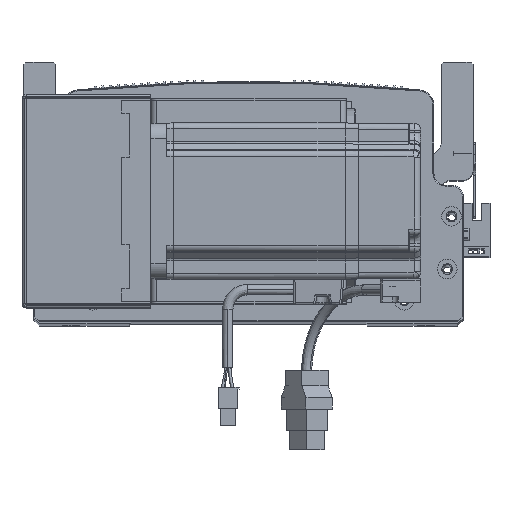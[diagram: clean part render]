
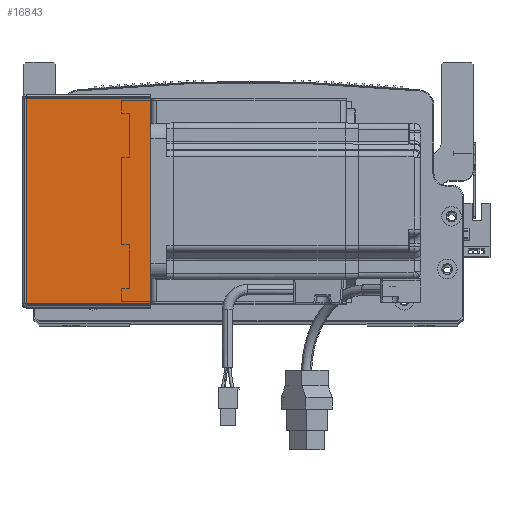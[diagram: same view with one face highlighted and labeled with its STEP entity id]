
A CAD part, top view. The second image highlights one B-rep face of the part: STEP entity #16843.
In plain terms, the highlighted planar face has unit normal (0, 0, 1) as drawn and (0, 0, -1) by its records, which use the part's own axes.
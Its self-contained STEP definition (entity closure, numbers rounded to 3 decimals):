
#2902 = DIRECTION ( 'NONE',  ( 0., -1., 0. ) ) ;
#3238 = CARTESIAN_POINT ( 'NONE',  ( 64.5, 0.707, -205.5 ) ) ;
#5547 = VERTEX_POINT ( 'NONE', #3238 ) ;
#9069 = CARTESIAN_POINT ( 'NONE',  ( 0.737, 105.293, -205.5 ) ) ;
#10373 = AXIS2_PLACEMENT_3D ( 'NONE', #22209, #60274, #54116 ) ;
#10546 = CARTESIAN_POINT ( 'NONE',  ( 0., 105.293, -205.5 ) ) ;
#10885 = LINE ( 'NONE', #23029, #52917 ) ;
#10970 = VECTOR ( 'NONE', #50141, 1000. ) ;
#11019 = LINE ( 'NONE', #10546, #80303 ) ;
#12000 = FACE_OUTER_BOUND ( 'NONE', #64985, .T. ) ;
#13099 = VERTEX_POINT ( 'NONE', #49737 ) ;
#15364 = CARTESIAN_POINT ( 'NONE',  ( 0.737, 0.707, -205.5 ) ) ;
#15518 = PLANE ( 'NONE',  #10373 ) ;
#16734 = ORIENTED_EDGE ( 'NONE', *, *, #67306, .F. ) ;
#16843 = ADVANCED_FACE ( 'NONE', ( #12000 ), #15518, .F. ) ;
#22209 = CARTESIAN_POINT ( 'NONE',  ( 0., 0., -205.5 ) ) ;
#23029 = CARTESIAN_POINT ( 'NONE',  ( 0.737, 0., -205.5 ) ) ;
#25190 = CARTESIAN_POINT ( 'NONE',  ( 64.5, 0., -205.5 ) ) ;
#25981 = VECTOR ( 'NONE', #73008, 1000. ) ;
#27032 = LINE ( 'NONE', #25190, #10970 ) ;
#27817 = EDGE_CURVE ( 'NONE', #54894, #37359, #10885, .T. ) ;
#37359 = VERTEX_POINT ( 'NONE', #15364 ) ;
#40148 = LINE ( 'NONE', #40335, #25981 ) ;
#40335 = CARTESIAN_POINT ( 'NONE',  ( 0., 0.707, -205.5 ) ) ;
#45036 = ORIENTED_EDGE ( 'NONE', *, *, #82685, .T. ) ;
#48886 = ORIENTED_EDGE ( 'NONE', *, *, #27817, .F. ) ;
#49737 = CARTESIAN_POINT ( 'NONE',  ( 64.5, 105.293, -205.5 ) ) ;
#50141 = DIRECTION ( 'NONE',  ( 0., -1., 0. ) ) ;
#52917 = VECTOR ( 'NONE', #2902, 1000. ) ;
#54116 = DIRECTION ( 'NONE',  ( 1., 0., 0. ) ) ;
#54894 = VERTEX_POINT ( 'NONE', #9069 ) ;
#60274 = DIRECTION ( 'NONE',  ( 0., 0., 1. ) ) ;
#61440 = DIRECTION ( 'NONE',  ( 1., 0., 0. ) ) ;
#64985 = EDGE_LOOP ( 'NONE', ( #48886, #81441, #45036, #16734 ) ) ;
#65156 = EDGE_CURVE ( 'NONE', #54894, #13099, #11019, .T. ) ;
#67306 = EDGE_CURVE ( 'NONE', #37359, #5547, #40148, .T. ) ;
#73008 = DIRECTION ( 'NONE',  ( 1., 0., 0. ) ) ;
#80303 = VECTOR ( 'NONE', #61440, 1000. ) ;
#81441 = ORIENTED_EDGE ( 'NONE', *, *, #65156, .T. ) ;
#82685 = EDGE_CURVE ( 'NONE', #13099, #5547, #27032, .T. ) ;
